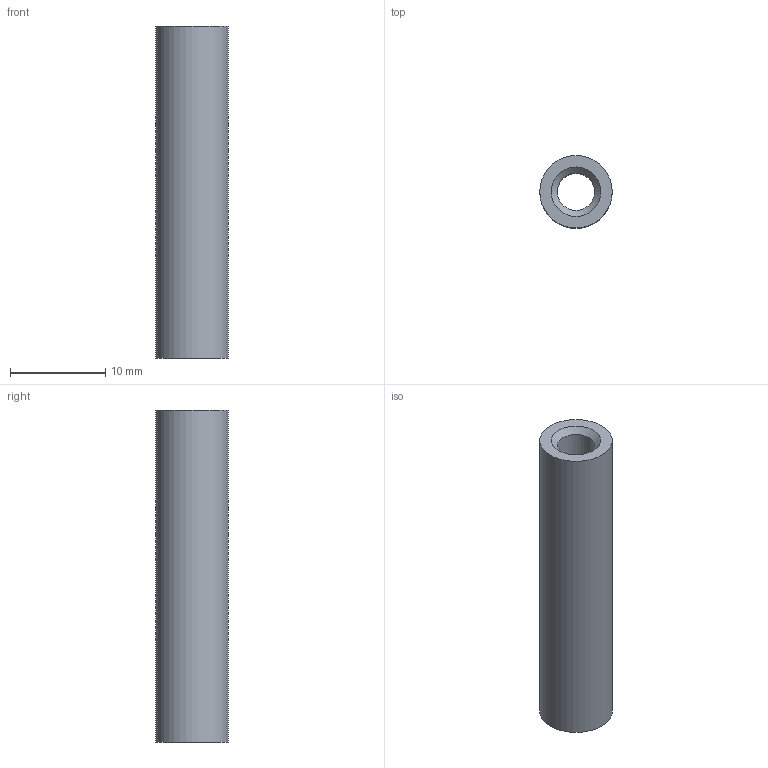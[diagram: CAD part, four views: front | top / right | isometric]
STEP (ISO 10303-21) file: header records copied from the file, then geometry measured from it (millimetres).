
FILE_DESCRIPTION(/* description */ ('STEP AP242 Edition 2','CAx-IF Rec.Pracs.---Representation and Presentation of Product Manufacturing Information (PMI)---4.0---2014-10-13','CAx-IF Rec.Pracs.---3D Tessellated Geometry---0.4---2014-09-14','2;1','CAx-IF Rec.Pracs.---User Defined Attributes---1.5---2016-08-15'),/* implementation_level */ '2;1');
FILE_NAME(/* name */ 'Main - 1.375in spacer (1)',/* time_stamp */ '2026-09-13T15:49:56Z',/* author */ (''),/* organization */ (''),/* preprocessor_version */ 'ST-DEVELOPER v20',/* originating_system */ 'ONSHAPE BY PTC INC, 1.220',/* authorisation */ ' ');
FILE_SCHEMA (('AP242_MANAGED_MODEL_BASED_3D_ENGINEERING_MIM_LF { 1 0 10303 442 3 1 4 }'));
Length unit declared in the file: metre
Products named in the file (1): 1.375in spacer
Bounding box: 7.62 x 7.62 x 34.92 mm (x, y, z)
Volume: 1162 mm3; surface area: 1326.7 mm2
Topology: 1 solids, 1 shells, 6 faces, 10 edges, 6 vertices
Faces by surface type: cylinder 2, plane 2, cone 2
Full cylindrical faces by diameter (mm): 3.937 x1, 7.62 x1
Entity records: 150 total; most frequent: DIRECTION 26, CARTESIAN_POINT 19, AXIS2_PLACEMENT_3D 13, ORIENTED_EDGE 12, EDGE_LOOP 12, FACE_BOUND 12, EDGE_CURVE 6, VERTEX_POINT 6
